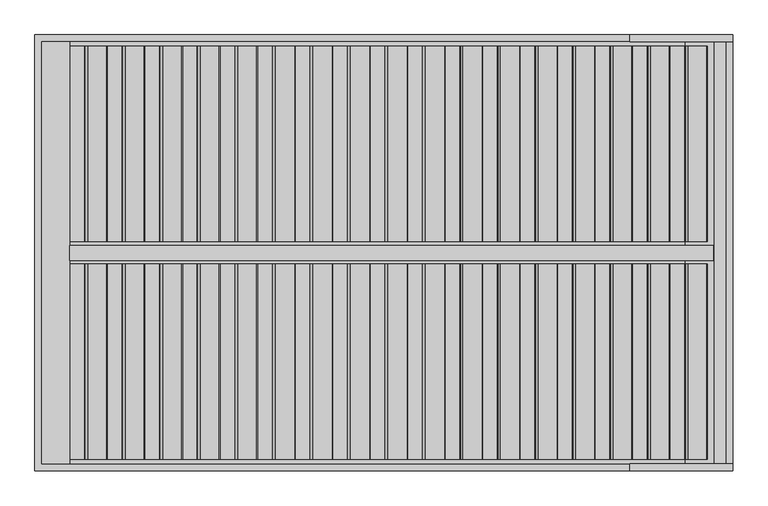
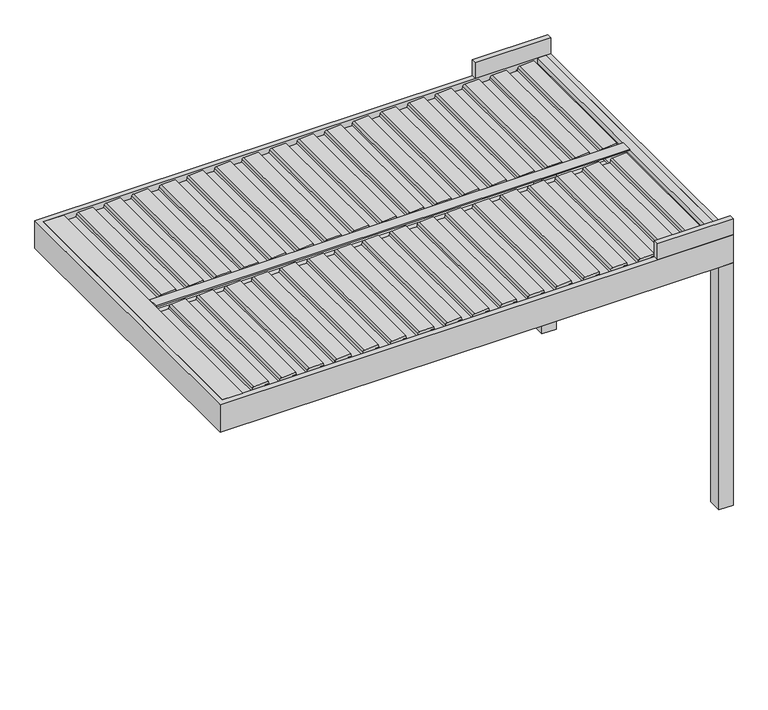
"""IFC4 building model written with IfcOpenShell, lengths in millimetres: proxy geometry, Renson_Algarve_Single Unit With Intermediate Beam : Algarve - Single Unit With Intermediate Beam."""

from ifc_helpers import new_model, si_unit, point, frame, frame_2d, origin, origin_with_axes, place, context, project, spatial, polyline, circle_curve, trimmed, segment, composite_curve, outline, extrude, faceted_brep, source, transform, mapped, element, save


def generic_models_c11a03fd(model_context):
    return source(origin(), model_context, "Body", "SolidModel", [
        extrude(outline(composite_curve([segment(polyline([(2188.35, 1609.6114167), (2216.01198, 1612.0315264), (2217.3970364, 1640.8667769), (2236.8911096, 1637.4294458), (2231.6075693, 1527.4323309)]), True, "CONTINUOUS"), segment(trimmed(circle_curve(frame_2d((2216.6248435, 1528.1520029)), 15.0), [point((2231.6075693, 1527.4323309))], [point((2219.2295662, 1513.3798866))], False, "CARTESIAN"), True, "CONTINUOUS"), segment(polyline([(2219.2295662, 1513.3798866), (2200.0, 1509.9891952), (2200.0, 1422.2534192), (2217.0788237, 1419.2419618), (2216.3450182, 1403.9649913), (2188.35, 1401.5157446), (2188.35, 1609.6114167)]), True, "CONTINUOUS")], self_intersect=False)), frame((0.0, -1810.0, 0.0), z_axis=(0.0, 1.0, 0.0), x_axis=(0.0, 0.0, 1.0)), (0.0, 0.0, 1.0), 1120.0),
        extrude(outline(composite_curve([segment(polyline([(2188.35, 1394.600612), (2216.01198, 1397.0207216), (2217.3970364, 1425.8559721), (2236.8911096, 1422.418641), (2231.6075693, 1312.4215261)]), True, "CONTINUOUS"), segment(trimmed(circle_curve(frame_2d((2216.6248435, 1313.1411981)), 15.0), [point((2231.6075693, 1312.4215261))], [point((2219.2295662, 1298.3690818))], False, "CARTESIAN"), True, "CONTINUOUS"), segment(polyline([(2219.2295662, 1298.3690818), (2200.0, 1294.9783904), (2200.0, 1207.2426144), (2217.0788237, 1204.231157), (2216.3450182, 1188.9541865), (2188.35, 1186.5049398), (2188.35, 1394.600612)]), True, "CONTINUOUS")], self_intersect=False)), frame((0.0, -1810.0, 0.0), z_axis=(0.0, 1.0, 0.0), x_axis=(0.0, 0.0, 1.0)), (0.0, 0.0, 1.0), 1120.0),
        extrude(outline(composite_curve([segment(polyline([(2188.35, 1179.5898072), (2216.01198, 1182.0099168), (2217.3970364, 1210.8451673), (2236.8911096, 1207.4078362), (2231.6075693, 1097.4107214)]), True, "CONTINUOUS"), segment(trimmed(circle_curve(frame_2d((2216.6248435, 1098.1303933)), 15.0), [point((2231.6075693, 1097.4107214))], [point((2219.2295662, 1083.358277))], False, "CARTESIAN"), True, "CONTINUOUS"), segment(polyline([(2219.2295662, 1083.358277), (2200.0, 1079.9675857), (2200.0, 992.2318096), (2217.0788237, 989.2203522), (2216.3450182, 973.9433817), (2188.35, 971.494135), (2188.35, 1179.5898072)]), True, "CONTINUOUS")], self_intersect=False)), frame((0.0, -1810.0, 0.0), z_axis=(0.0, 1.0, 0.0), x_axis=(0.0, 0.0, 1.0)), (0.0, 0.0, 1.0), 1120.0),
        extrude(outline(composite_curve([segment(polyline([(2188.35, 964.5790024), (2216.01198, 966.999112), (2217.3970364, 995.8343625), (2236.8911096, 992.3970314), (2231.6075693, 882.3999166)]), True, "CONTINUOUS"), segment(trimmed(circle_curve(frame_2d((2216.6248435, 883.1195885)), 15.0), [point((2231.6075693, 882.3999166))], [point((2219.2295662, 868.3474722))], False, "CARTESIAN"), True, "CONTINUOUS"), segment(polyline([(2219.2295662, 868.3474722), (2200.0, 864.9567809), (2200.0, 777.2210048), (2217.0788237, 774.2095474), (2216.3450182, 758.932577), (2188.35, 756.4833302), (2188.35, 964.5790024)]), True, "CONTINUOUS")], self_intersect=False)), frame((0.0, -1810.0, 0.0), z_axis=(0.0, 1.0, 0.0), x_axis=(0.0, 0.0, 1.0)), (0.0, 0.0, 1.0), 1120.0),
        extrude(outline(composite_curve([segment(polyline([(2188.35, 749.5681976), (2216.01198, 751.9883073), (2217.3970364, 780.8235577), (2236.8911096, 777.3862267), (2231.6075693, 667.3891118)]), True, "CONTINUOUS"), segment(trimmed(circle_curve(frame_2d((2216.6248435, 668.1087837)), 15.0), [point((2231.6075693, 667.3891118))], [point((2219.2295662, 653.3366674))], False, "CARTESIAN"), True, "CONTINUOUS"), segment(polyline([(2219.2295662, 653.3366674), (2200.0, 649.9459761), (2200.0, 562.2102001), (2217.0788237, 559.1987426), (2216.3450182, 543.9217722), (2188.35, 541.4725254), (2188.35, 749.5681976)]), True, "CONTINUOUS")], self_intersect=False)), frame((0.0, -1810.0, 0.0), z_axis=(0.0, 1.0, 0.0), x_axis=(0.0, 0.0, 1.0)), (0.0, 0.0, 1.0), 1120.0),
        extrude(outline(composite_curve([segment(polyline([(2188.35, 534.5573928), (2216.01198, 536.9775025), (2217.3970364, 565.8127529), (2236.8911096, 562.3754219), (2231.6075693, 452.378307)]), True, "CONTINUOUS"), segment(trimmed(circle_curve(frame_2d((2216.6248435, 453.0979789)), 15.0), [point((2231.6075693, 452.378307))], [point((2219.2295662, 438.3258627))], False, "CARTESIAN"), True, "CONTINUOUS"), segment(polyline([(2219.2295662, 438.3258627), (2200.0, 434.9351713), (2200.0, 347.1993953), (2217.0788237, 344.1879379), (2216.3450182, 328.9109674), (2188.35, 326.4617207), (2188.35, 534.5573928)]), True, "CONTINUOUS")], self_intersect=False)), frame((0.0, -1810.0, 0.0), z_axis=(0.0, 1.0, 0.0), x_axis=(0.0, 0.0, 1.0)), (0.0, 0.0, 1.0), 1120.0),
        extrude(outline(composite_curve([segment(polyline([(2188.35, 319.546588), (2216.01198, 321.9666977), (2217.3970364, 350.8019482), (2236.8911096, 347.3646171), (2231.6075693, 237.3675022)]), True, "CONTINUOUS"), segment(trimmed(circle_curve(frame_2d((2216.6248435, 238.0871742)), 15.0), [point((2231.6075693, 237.3675022))], [point((2219.2295662, 223.3150579))], False, "CARTESIAN"), True, "CONTINUOUS"), segment(polyline([(2219.2295662, 223.3150579), (2200.0, 219.9243665), (2200.0, 132.1885905), (2217.0788237, 129.1771331), (2216.3450182, 113.9001626), (2188.35, 111.4509159), (2188.35, 319.546588)]), True, "CONTINUOUS")], self_intersect=False)), frame((0.0, -1810.0, 0.0), z_axis=(0.0, 1.0, 0.0), x_axis=(0.0, 0.0, 1.0)), (0.0, 0.0, 1.0), 1120.0),
        extrude(outline(composite_curve([segment(polyline([(2188.35, 104.5357833), (2216.01198, 106.9558929), (2217.3970364, 135.7911434), (2236.8911096, 132.3538123), (2231.6075693, 22.3566975)]), True, "CONTINUOUS"), segment(trimmed(circle_curve(frame_2d((2216.6248435, 23.0763694)), 15.0), [point((2231.6075693, 22.3566975))], [point((2219.2295662, 8.3042531))], False, "CARTESIAN"), True, "CONTINUOUS"), segment(polyline([(2219.2295662, 8.3042531), (2200.0, 4.9135617), (2200.0, -82.8222143), (2217.0788237, -85.8336717), (2216.3450182, -101.1106422), (2188.35, -103.5598889), (2188.35, 104.5357833)]), True, "CONTINUOUS")], self_intersect=False)), frame((0.0, -1810.0, 0.0), z_axis=(0.0, 1.0, 0.0), x_axis=(0.0, 0.0, 1.0)), (0.0, 0.0, 1.0), 1120.0),
        extrude(outline(composite_curve([segment(polyline([(2188.35, -110.4750215), (2216.01198, -108.0549119), (2217.3970364, -79.2196614), (2236.8911096, -82.6569925), (2231.6075693, -192.6541073)]), True, "CONTINUOUS"), segment(trimmed(circle_curve(frame_2d((2216.6248435, -191.9344354)), 15.0), [point((2231.6075693, -192.6541073))], [point((2219.2295662, -206.7065517))], False, "CARTESIAN"), True, "CONTINUOUS"), segment(polyline([(2219.2295662, -206.7065517), (2200.0, -210.097243), (2200.0, -297.8330191), (2217.0788237, -300.8444765), (2216.3450182, -316.121447), (2188.35, -318.5706937), (2188.35, -110.4750215)]), True, "CONTINUOUS")], self_intersect=False)), frame((0.0, -1810.0, 0.0), z_axis=(0.0, 1.0, 0.0), x_axis=(0.0, 0.0, 1.0)), (0.0, 0.0, 1.0), 1120.0),
        extrude(outline(composite_curve([segment(polyline([(2188.35, -325.4858263), (2216.01198, -323.0657166), (2217.3970364, -294.2304662), (2236.8911096, -297.6677973), (2231.6075693, -407.6649121)]), True, "CONTINUOUS"), segment(trimmed(circle_curve(frame_2d((2216.6248435, -406.9452402)), 15.0), [point((2231.6075693, -407.6649121))], [point((2219.2295662, -421.7173565))], False, "CARTESIAN"), True, "CONTINUOUS"), segment(polyline([(2219.2295662, -421.7173565), (2200.0, -425.1080478), (2200.0, -512.8438238), (2217.0788237, -515.8552813), (2216.3450182, -531.1322517), (2188.35, -533.5814985), (2188.35, -325.4858263)]), True, "CONTINUOUS")], self_intersect=False)), frame((0.0, -1810.0, 0.0), z_axis=(0.0, 1.0, 0.0), x_axis=(0.0, 0.0, 1.0)), (0.0, 0.0, 1.0), 1120.0),
        extrude(outline(composite_curve([segment(polyline([(2188.35, -540.4966311), (2216.01198, -538.0765214), (2217.3970364, -509.241271), (2236.8911096, -512.678602), (2231.6075693, -622.6757169)]), True, "CONTINUOUS"), segment(trimmed(circle_curve(frame_2d((2216.6248435, -621.956045)), 15.0), [point((2231.6075693, -622.6757169))], [point((2219.2295662, -636.7281613))], False, "CARTESIAN"), True, "CONTINUOUS"), segment(polyline([(2219.2295662, -636.7281613), (2200.0, -640.1188526), (2200.0, -727.8546286), (2217.0788237, -730.866086), (2216.3450182, -746.1430565), (2188.35, -748.5923032), (2188.35, -540.4966311)]), True, "CONTINUOUS")], self_intersect=False)), frame((0.0, -1810.0, 0.0), z_axis=(0.0, 1.0, 0.0), x_axis=(0.0, 0.0, 1.0)), (0.0, 0.0, 1.0), 1120.0),
        extrude(outline(composite_curve([segment(polyline([(2188.35, -755.5074359), (2216.01198, -753.0873262), (2217.3970364, -724.2520757), (2236.8911096, -727.6894068), (2231.6075693, -837.6865217)]), True, "CONTINUOUS"), segment(trimmed(circle_curve(frame_2d((2216.6248435, -836.9668497)), 15.0), [point((2231.6075693, -837.6865217))], [point((2219.2295662, -851.738966))], False, "CARTESIAN"), True, "CONTINUOUS"), segment(polyline([(2219.2295662, -851.738966), (2200.0, -855.1296574), (2200.0, -942.8654334), (2217.0788237, -945.8768908), (2216.3450182, -961.1538613), (2188.35, -963.603108), (2188.35, -755.5074359)]), True, "CONTINUOUS")], self_intersect=False)), frame((0.0, -1810.0, 0.0), z_axis=(0.0, 1.0, 0.0), x_axis=(0.0, 0.0, 1.0)), (0.0, 0.0, 1.0), 1120.0),
        extrude(outline(composite_curve([segment(polyline([(2188.35, -970.5182406), (2216.01198, -968.098131), (2217.3970364, -939.2628805), (2236.8911096, -942.7002116), (2231.6075693, -1052.6973265)]), True, "CONTINUOUS"), segment(trimmed(circle_curve(frame_2d((2216.6248435, -1051.9776545)), 15.0), [point((2231.6075693, -1052.6973265))], [point((2219.2295662, -1066.7497708))], False, "CARTESIAN"), True, "CONTINUOUS"), segment(polyline([(2219.2295662, -1066.7497708), (2200.0, -1070.1404622), (2200.0, -1157.8762382), (2217.0788237, -1160.8876956), (2216.3450182, -1176.1646661), (2188.35, -1178.6139128), (2188.35, -970.5182406)]), True, "CONTINUOUS")], self_intersect=False)), frame((0.0, -1810.0, 0.0), z_axis=(0.0, 1.0, 0.0), x_axis=(0.0, 0.0, 1.0)), (0.0, 0.0, 1.0), 1120.0),
        extrude(outline(composite_curve([segment(polyline([(2188.35, -1185.5290454), (2216.01198, -1183.1089358), (2217.3970364, -1154.2736853), (2236.8911096, -1157.7110164), (2231.6075693, -1267.7081312)]), True, "CONTINUOUS"), segment(trimmed(circle_curve(frame_2d((2216.6248435, -1266.9884593)), 15.0), [point((2231.6075693, -1267.7081312))], [point((2219.2295662, -1281.7605756))], False, "CARTESIAN"), True, "CONTINUOUS"), segment(polyline([(2219.2295662, -1281.7605756), (2200.0, -1285.1512669), (2200.0, -1372.887043), (2217.0788237, -1375.8985004), (2216.3450182, -1391.1754709), (2188.35, -1393.6247176), (2188.35, -1185.5290454)]), True, "CONTINUOUS")], self_intersect=False)), frame((0.0, -1810.0, 0.0), z_axis=(0.0, 1.0, 0.0), x_axis=(0.0, 0.0, 1.0)), (0.0, 0.0, 1.0), 1120.0),
        extrude(outline(composite_curve([segment(polyline([(2188.35, -1400.5398502), (2216.01198, -1398.1197405), (2217.3970364, -1369.2844901), (2236.8911096, -1372.7218212), (2231.6075693, -1482.718936)]), True, "CONTINUOUS"), segment(trimmed(circle_curve(frame_2d((2216.6248435, -1481.9992641)), 15.0), [point((2231.6075693, -1482.718936))], [point((2219.2295662, -1496.7713804))], False, "CARTESIAN"), True, "CONTINUOUS"), segment(polyline([(2219.2295662, -1496.7713804), (2200.0, -1500.1620717), (2200.0, -1587.8978478), (2217.0788237, -1590.9093052), (2216.3450182, -1606.1862756), (2188.35, -1608.6355224), (2188.35, -1400.5398502)]), True, "CONTINUOUS")], self_intersect=False)), frame((0.0, -1810.0, 0.0), z_axis=(0.0, 1.0, 0.0), x_axis=(0.0, 0.0, 1.0)), (0.0, 0.0, 1.0), 1120.0),
        extrude(outline(composite_curve([segment(polyline([(2188.35, 1824.6222215), (2216.01198, 1827.0423312), (2217.3970364, 1855.8775816), (2236.8911096, 1852.4402506), (2231.6075693, 1742.4431357)]), True, "CONTINUOUS"), segment(trimmed(circle_curve(frame_2d((2216.6248435, 1743.1628076)), 15.0), [point((2231.6075693, 1742.4431357))], [point((2219.2295662, 1728.3906913))], False, "CARTESIAN"), True, "CONTINUOUS"), segment(polyline([(2219.2295662, 1728.3906913), (2200.0, 1725.0), (2200.0, 1637.264224), (2217.0788237, 1634.2527666), (2216.3450182, 1618.9757961), (2188.35, 1616.5265494), (2188.35, 1824.6222215)]), True, "CONTINUOUS")], self_intersect=False)), frame((0.0, -1810.0, 0.0), z_axis=(0.0, 1.0, 0.0), x_axis=(0.0, 0.0, 1.0)), (0.0, 0.0, 1.0), 1120.0),
        extrude(outline(composite_curve([segment(polyline([(2188.35, -1615.550655), (2216.01198, -1613.1305453), (2217.3970364, -1584.2952949), (2236.8911096, -1587.7326259), (2231.6075693, -1697.7297408)]), True, "CONTINUOUS"), segment(trimmed(circle_curve(frame_2d((2216.6248435, -1697.0100689)), 15.0), [point((2231.6075693, -1697.7297408))], [point((2219.2295662, -1711.7821852))], False, "CARTESIAN"), True, "CONTINUOUS"), segment(polyline([(2219.2295662, -1711.7821852), (2200.0, -1715.1728765), (2200.0, -1802.9086525), (2217.0788237, -1805.9201099), (2216.3450182, -1821.1970804), (2188.35, -1823.6463271), (2188.35, -1615.550655)]), True, "CONTINUOUS")], self_intersect=False)), frame((0.0, -1810.0, 0.0), z_axis=(0.0, 1.0, 0.0), x_axis=(0.0, 0.0, 1.0)), (0.0, 0.0, 1.0), 1120.0),
        extrude(outline(composite_curve([segment(polyline([(2188.35, 1609.6114167), (2216.01198, 1612.0315264), (2217.3970364, 1640.8667769), (2236.8911096, 1637.4294458), (2231.6075693, 1527.4323309)]), True, "CONTINUOUS"), segment(trimmed(circle_curve(frame_2d((2216.6248435, 1528.1520029)), 15.0), [point((2231.6075693, 1527.4323309))], [point((2219.2295662, 1513.3798866))], False, "CARTESIAN"), True, "CONTINUOUS"), segment(polyline([(2219.2295662, 1513.3798866), (2200.0, 1509.9891952), (2200.0, 1422.2534192), (2217.0788237, 1419.2419618), (2216.3450182, 1403.9649913), (2188.35, 1401.5157446), (2188.35, 1609.6114167)]), True, "CONTINUOUS")], self_intersect=False)), frame((0.0, -560.0, 0.0), z_axis=(0.0, 1.0, 0.0), x_axis=(0.0, 0.0, 1.0)), (0.0, 0.0, 1.0), 1120.0),
        extrude(outline(composite_curve([segment(polyline([(2188.35, 1394.600612), (2216.01198, 1397.0207216), (2217.3970364, 1425.8559721), (2236.8911096, 1422.418641), (2231.6075693, 1312.4215261)]), True, "CONTINUOUS"), segment(trimmed(circle_curve(frame_2d((2216.6248435, 1313.1411981)), 15.0), [point((2231.6075693, 1312.4215261))], [point((2219.2295662, 1298.3690818))], False, "CARTESIAN"), True, "CONTINUOUS"), segment(polyline([(2219.2295662, 1298.3690818), (2200.0, 1294.9783904), (2200.0, 1207.2426144), (2217.0788237, 1204.231157), (2216.3450182, 1188.9541865), (2188.35, 1186.5049398), (2188.35, 1394.600612)]), True, "CONTINUOUS")], self_intersect=False)), frame((0.0, -560.0, 0.0), z_axis=(0.0, 1.0, 0.0), x_axis=(0.0, 0.0, 1.0)), (0.0, 0.0, 1.0), 1120.0),
        extrude(outline(composite_curve([segment(polyline([(2188.35, 1179.5898072), (2216.01198, 1182.0099168), (2217.3970364, 1210.8451673), (2236.8911096, 1207.4078362), (2231.6075693, 1097.4107214)]), True, "CONTINUOUS"), segment(trimmed(circle_curve(frame_2d((2216.6248435, 1098.1303933)), 15.0), [point((2231.6075693, 1097.4107214))], [point((2219.2295662, 1083.358277))], False, "CARTESIAN"), True, "CONTINUOUS"), segment(polyline([(2219.2295662, 1083.358277), (2200.0, 1079.9675857), (2200.0, 992.2318096), (2217.0788237, 989.2203522), (2216.3450182, 973.9433817), (2188.35, 971.494135), (2188.35, 1179.5898072)]), True, "CONTINUOUS")], self_intersect=False)), frame((0.0, -560.0, 0.0), z_axis=(0.0, 1.0, 0.0), x_axis=(0.0, 0.0, 1.0)), (0.0, 0.0, 1.0), 1120.0),
        extrude(outline(composite_curve([segment(polyline([(2188.35, 964.5790024), (2216.01198, 966.999112), (2217.3970364, 995.8343625), (2236.8911096, 992.3970314), (2231.6075693, 882.3999166)]), True, "CONTINUOUS"), segment(trimmed(circle_curve(frame_2d((2216.6248435, 883.1195885)), 15.0), [point((2231.6075693, 882.3999166))], [point((2219.2295662, 868.3474722))], False, "CARTESIAN"), True, "CONTINUOUS"), segment(polyline([(2219.2295662, 868.3474722), (2200.0, 864.9567809), (2200.0, 777.2210048), (2217.0788237, 774.2095474), (2216.3450182, 758.932577), (2188.35, 756.4833302), (2188.35, 964.5790024)]), True, "CONTINUOUS")], self_intersect=False)), frame((0.0, -560.0, 0.0), z_axis=(0.0, 1.0, 0.0), x_axis=(0.0, 0.0, 1.0)), (0.0, 0.0, 1.0), 1120.0),
        extrude(outline(composite_curve([segment(polyline([(2188.35, 749.5681976), (2216.01198, 751.9883073), (2217.3970364, 780.8235577), (2236.8911096, 777.3862267), (2231.6075693, 667.3891118)]), True, "CONTINUOUS"), segment(trimmed(circle_curve(frame_2d((2216.6248435, 668.1087837)), 15.0), [point((2231.6075693, 667.3891118))], [point((2219.2295662, 653.3366674))], False, "CARTESIAN"), True, "CONTINUOUS"), segment(polyline([(2219.2295662, 653.3366674), (2200.0, 649.9459761), (2200.0, 562.2102001), (2217.0788237, 559.1987426), (2216.3450182, 543.9217722), (2188.35, 541.4725254), (2188.35, 749.5681976)]), True, "CONTINUOUS")], self_intersect=False)), frame((0.0, -560.0, 0.0), z_axis=(0.0, 1.0, 0.0), x_axis=(0.0, 0.0, 1.0)), (0.0, 0.0, 1.0), 1120.0),
        extrude(outline(composite_curve([segment(polyline([(2188.35, 534.5573928), (2216.01198, 536.9775025), (2217.3970364, 565.8127529), (2236.8911096, 562.3754219), (2231.6075693, 452.378307)]), True, "CONTINUOUS"), segment(trimmed(circle_curve(frame_2d((2216.6248435, 453.0979789)), 15.0), [point((2231.6075693, 452.378307))], [point((2219.2295662, 438.3258627))], False, "CARTESIAN"), True, "CONTINUOUS"), segment(polyline([(2219.2295662, 438.3258627), (2200.0, 434.9351713), (2200.0, 347.1993953), (2217.0788237, 344.1879379), (2216.3450182, 328.9109674), (2188.35, 326.4617207), (2188.35, 534.5573928)]), True, "CONTINUOUS")], self_intersect=False)), frame((0.0, -560.0, 0.0), z_axis=(0.0, 1.0, 0.0), x_axis=(0.0, 0.0, 1.0)), (0.0, 0.0, 1.0), 1120.0),
        extrude(outline(composite_curve([segment(polyline([(2188.35, 319.546588), (2216.01198, 321.9666977), (2217.3970364, 350.8019482), (2236.8911096, 347.3646171), (2231.6075693, 237.3675022)]), True, "CONTINUOUS"), segment(trimmed(circle_curve(frame_2d((2216.6248435, 238.0871742)), 15.0), [point((2231.6075693, 237.3675022))], [point((2219.2295662, 223.3150579))], False, "CARTESIAN"), True, "CONTINUOUS"), segment(polyline([(2219.2295662, 223.3150579), (2200.0, 219.9243665), (2200.0, 132.1885905), (2217.0788237, 129.1771331), (2216.3450182, 113.9001626), (2188.35, 111.4509159), (2188.35, 319.546588)]), True, "CONTINUOUS")], self_intersect=False)), frame((0.0, -560.0, 0.0), z_axis=(0.0, 1.0, 0.0), x_axis=(0.0, 0.0, 1.0)), (0.0, 0.0, 1.0), 1120.0),
        extrude(outline(composite_curve([segment(polyline([(2188.35, 104.5357833), (2216.01198, 106.9558929), (2217.3970364, 135.7911434), (2236.8911096, 132.3538123), (2231.6075693, 22.3566975)]), True, "CONTINUOUS"), segment(trimmed(circle_curve(frame_2d((2216.6248435, 23.0763694)), 15.0), [point((2231.6075693, 22.3566975))], [point((2219.2295662, 8.3042531))], False, "CARTESIAN"), True, "CONTINUOUS"), segment(polyline([(2219.2295662, 8.3042531), (2200.0, 4.9135617), (2200.0, -82.8222143), (2217.0788237, -85.8336717), (2216.3450182, -101.1106422), (2188.35, -103.5598889), (2188.35, 104.5357833)]), True, "CONTINUOUS")], self_intersect=False)), frame((0.0, -560.0, 0.0), z_axis=(0.0, 1.0, 0.0), x_axis=(0.0, 0.0, 1.0)), (0.0, 0.0, 1.0), 1120.0),
        extrude(outline(composite_curve([segment(polyline([(2188.35, -110.4750215), (2216.01198, -108.0549119), (2217.3970364, -79.2196614), (2236.8911096, -82.6569925), (2231.6075693, -192.6541073)]), True, "CONTINUOUS"), segment(trimmed(circle_curve(frame_2d((2216.6248435, -191.9344354)), 15.0), [point((2231.6075693, -192.6541073))], [point((2219.2295662, -206.7065517))], False, "CARTESIAN"), True, "CONTINUOUS"), segment(polyline([(2219.2295662, -206.7065517), (2200.0, -210.097243), (2200.0, -297.8330191), (2217.0788237, -300.8444765), (2216.3450182, -316.121447), (2188.35, -318.5706937), (2188.35, -110.4750215)]), True, "CONTINUOUS")], self_intersect=False)), frame((0.0, -560.0, 0.0), z_axis=(0.0, 1.0, 0.0), x_axis=(0.0, 0.0, 1.0)), (0.0, 0.0, 1.0), 1120.0),
        extrude(outline(composite_curve([segment(polyline([(2188.35, -325.4858263), (2216.01198, -323.0657166), (2217.3970364, -294.2304662), (2236.8911096, -297.6677973), (2231.6075693, -407.6649121)]), True, "CONTINUOUS"), segment(trimmed(circle_curve(frame_2d((2216.6248435, -406.9452402)), 15.0), [point((2231.6075693, -407.6649121))], [point((2219.2295662, -421.7173565))], False, "CARTESIAN"), True, "CONTINUOUS"), segment(polyline([(2219.2295662, -421.7173565), (2200.0, -425.1080478), (2200.0, -512.8438238), (2217.0788237, -515.8552813), (2216.3450182, -531.1322517), (2188.35, -533.5814985), (2188.35, -325.4858263)]), True, "CONTINUOUS")], self_intersect=False)), frame((0.0, -560.0, 0.0), z_axis=(0.0, 1.0, 0.0), x_axis=(0.0, 0.0, 1.0)), (0.0, 0.0, 1.0), 1120.0),
        extrude(outline(composite_curve([segment(polyline([(2188.35, -540.4966311), (2216.01198, -538.0765214), (2217.3970364, -509.241271), (2236.8911096, -512.678602), (2231.6075693, -622.6757169)]), True, "CONTINUOUS"), segment(trimmed(circle_curve(frame_2d((2216.6248435, -621.956045)), 15.0), [point((2231.6075693, -622.6757169))], [point((2219.2295662, -636.7281613))], False, "CARTESIAN"), True, "CONTINUOUS"), segment(polyline([(2219.2295662, -636.7281613), (2200.0, -640.1188526), (2200.0, -727.8546286), (2217.0788237, -730.866086), (2216.3450182, -746.1430565), (2188.35, -748.5923032), (2188.35, -540.4966311)]), True, "CONTINUOUS")], self_intersect=False)), frame((0.0, -560.0, 0.0), z_axis=(0.0, 1.0, 0.0), x_axis=(0.0, 0.0, 1.0)), (0.0, 0.0, 1.0), 1120.0),
        extrude(outline(composite_curve([segment(polyline([(2188.35, -755.5074359), (2216.01198, -753.0873262), (2217.3970364, -724.2520757), (2236.8911096, -727.6894068), (2231.6075693, -837.6865217)]), True, "CONTINUOUS"), segment(trimmed(circle_curve(frame_2d((2216.6248435, -836.9668497)), 15.0), [point((2231.6075693, -837.6865217))], [point((2219.2295662, -851.738966))], False, "CARTESIAN"), True, "CONTINUOUS"), segment(polyline([(2219.2295662, -851.738966), (2200.0, -855.1296574), (2200.0, -942.8654334), (2217.0788237, -945.8768908), (2216.3450182, -961.1538613), (2188.35, -963.603108), (2188.35, -755.5074359)]), True, "CONTINUOUS")], self_intersect=False)), frame((0.0, -560.0, 0.0), z_axis=(0.0, 1.0, 0.0), x_axis=(0.0, 0.0, 1.0)), (0.0, 0.0, 1.0), 1120.0),
        extrude(outline(composite_curve([segment(polyline([(2188.35, -970.5182406), (2216.01198, -968.098131), (2217.3970364, -939.2628805), (2236.8911096, -942.7002116), (2231.6075693, -1052.6973265)]), True, "CONTINUOUS"), segment(trimmed(circle_curve(frame_2d((2216.6248435, -1051.9776545)), 15.0), [point((2231.6075693, -1052.6973265))], [point((2219.2295662, -1066.7497708))], False, "CARTESIAN"), True, "CONTINUOUS"), segment(polyline([(2219.2295662, -1066.7497708), (2200.0, -1070.1404622), (2200.0, -1157.8762382), (2217.0788237, -1160.8876956), (2216.3450182, -1176.1646661), (2188.35, -1178.6139128), (2188.35, -970.5182406)]), True, "CONTINUOUS")], self_intersect=False)), frame((0.0, -560.0, 0.0), z_axis=(0.0, 1.0, 0.0), x_axis=(0.0, 0.0, 1.0)), (0.0, 0.0, 1.0), 1120.0),
        extrude(outline(composite_curve([segment(polyline([(2188.35, -1185.5290454), (2216.01198, -1183.1089358), (2217.3970364, -1154.2736853), (2236.8911096, -1157.7110164), (2231.6075693, -1267.7081312)]), True, "CONTINUOUS"), segment(trimmed(circle_curve(frame_2d((2216.6248435, -1266.9884593)), 15.0), [point((2231.6075693, -1267.7081312))], [point((2219.2295662, -1281.7605756))], False, "CARTESIAN"), True, "CONTINUOUS"), segment(polyline([(2219.2295662, -1281.7605756), (2200.0, -1285.1512669), (2200.0, -1372.887043), (2217.0788237, -1375.8985004), (2216.3450182, -1391.1754709), (2188.35, -1393.6247176), (2188.35, -1185.5290454)]), True, "CONTINUOUS")], self_intersect=False)), frame((0.0, -560.0, 0.0), z_axis=(0.0, 1.0, 0.0), x_axis=(0.0, 0.0, 1.0)), (0.0, 0.0, 1.0), 1120.0),
        extrude(outline(composite_curve([segment(polyline([(2188.35, -1400.5398502), (2216.01198, -1398.1197405), (2217.3970364, -1369.2844901), (2236.8911096, -1372.7218212), (2231.6075693, -1482.718936)]), True, "CONTINUOUS"), segment(trimmed(circle_curve(frame_2d((2216.6248435, -1481.9992641)), 15.0), [point((2231.6075693, -1482.718936))], [point((2219.2295662, -1496.7713804))], False, "CARTESIAN"), True, "CONTINUOUS"), segment(polyline([(2219.2295662, -1496.7713804), (2200.0, -1500.1620717), (2200.0, -1587.8978478), (2217.0788237, -1590.9093052), (2216.3450182, -1606.1862756), (2188.35, -1608.6355224), (2188.35, -1400.5398502)]), True, "CONTINUOUS")], self_intersect=False)), frame((0.0, -560.0, 0.0), z_axis=(0.0, 1.0, 0.0), x_axis=(0.0, 0.0, 1.0)), (0.0, 0.0, 1.0), 1120.0),
        extrude(outline(composite_curve([segment(polyline([(2188.35, 1824.6222215), (2216.01198, 1827.0423312), (2217.3970364, 1855.8775816), (2236.8911096, 1852.4402506), (2231.6075693, 1742.4431357)]), True, "CONTINUOUS"), segment(trimmed(circle_curve(frame_2d((2216.6248435, 1743.1628076)), 15.0), [point((2231.6075693, 1742.4431357))], [point((2219.2295662, 1728.3906913))], False, "CARTESIAN"), True, "CONTINUOUS"), segment(polyline([(2219.2295662, 1728.3906913), (2200.0, 1725.0), (2200.0, 1637.264224), (2217.0788237, 1634.2527666), (2216.3450182, 1618.9757961), (2188.35, 1616.5265494), (2188.35, 1824.6222215)]), True, "CONTINUOUS")], self_intersect=False)), frame((0.0, -560.0, 0.0), z_axis=(0.0, 1.0, 0.0), x_axis=(0.0, 0.0, 1.0)), (0.0, 0.0, 1.0), 1120.0),
        extrude(outline(composite_curve([segment(polyline([(2188.35, -1615.550655), (2216.01198, -1613.1305453), (2217.3970364, -1584.2952949), (2236.8911096, -1587.7326259), (2231.6075693, -1697.7297408)]), True, "CONTINUOUS"), segment(trimmed(circle_curve(frame_2d((2216.6248435, -1697.0100689)), 15.0), [point((2231.6075693, -1697.7297408))], [point((2219.2295662, -1711.7821852))], False, "CARTESIAN"), True, "CONTINUOUS"), segment(polyline([(2219.2295662, -1711.7821852), (2200.0, -1715.1728765), (2200.0, -1802.9086525), (2217.0788237, -1805.9201099), (2216.3450182, -1821.1970804), (2188.35, -1823.6463271), (2188.35, -1615.550655)]), True, "CONTINUOUS")], self_intersect=False)), frame((0.0, -560.0, 0.0), z_axis=(0.0, 1.0, 0.0), x_axis=(0.0, 0.0, 1.0)), (0.0, 0.0, 1.0), 1120.0),
        extrude(outline(polyline([(2168.0, 1960.0), (2230.0, 1960.0), (2230.0, 1896.0), (2188.0, 1896.0), (2188.0, 1730.0), (2168.0, 1730.0), (2168.0, 1960.0)])), frame((0.0, -1835.0, 0.0), z_axis=(0.0, 1.0, 0.0), x_axis=(0.0, 0.0, 1.0)), (0.0, 0.0, 1.0), 2420.0),
        extrude(outline(polyline([(2230.0, -1800.0), (2230.0, -1960.0), (2186.0, -1960.0), (2186.0, -1827.3193336), (2219.1716603, -1824.4171894), (2220.344502, -1800.0), (2230.0, -1800.0)])), frame((0.0, -1835.0, 0.0), z_axis=(0.0, 1.0, 0.0), x_axis=(0.0, 0.0, 1.0)), (0.0, 0.0, 1.0), 2420.0),
        extrude(outline(polyline([(2000.0, -1835.0), (2000.0, -1875.0), (1410.0, -1875.0), (1410.0, -1835.0), (2000.0, -1835.0)])), frame((0.0, 0.0, 2230.0), z_axis=(0.0, 0.0, 1.0), x_axis=(1.0, 0.0, 0.0)), (0.0, 0.0, 1.0), 130.0),
        extrude(outline(polyline([(1890.0, -588.0), (-1890.0, -588.0), (-1890.0, -515.0), (1890.0, -515.0), (1890.0, -588.0)])), frame((0.0, 0.0, 2000.0), z_axis=(0.0, 0.0, 1.0), x_axis=(1.0, 0.0, 0.0)), (0.0, 0.0, 1.0), 90.0),
        extrude(outline(polyline([(1890.0, -662.0), (1890.0, -735.0), (-1890.0, -735.0), (-1890.0, -662.0), (1890.0, -662.0)])), frame((0.0, 0.0, 2000.0), z_axis=(0.0, 0.0, 1.0), x_axis=(1.0, 0.0, 0.0)), (0.0, 0.0, 1.0), 90.0),
        extrude(outline(polyline([(1890.0, -582.5), (1890.0, -667.5), (-1800.0, -667.5), (-1800.0, -582.5), (1890.0, -582.5)])), frame((0.0, 0.0, 2230.0), z_axis=(0.0, 0.0, 1.0), x_axis=(1.0, 0.0, 0.0)), (0.0, 0.0, 1.0), 10.0),
        faceted_brep([(1890.0, 515.0, 2057.0), (1890.0, 515.0, 2000.0), (1890.0, -1765.0, 2000.0), (1890.0, -1765.0, 2057.0), (2000.0, 625.0, 2000.0), (2000.0, 625.0, 2230.0), (2000.0, -1875.0, 2230.0), (2000.0, -1875.0, 2000.0), (1960.0, 585.0, 2230.0), (1960.0, 585.0, 2057.0), (1960.0, -1835.0, 2057.0), (1960.0, -1835.0, 2230.0), (-1890.0, -1765.0, 2000.0), (-1890.0, -1765.0, 2057.0), (-2000.0, -1875.0, 2230.0), (-2000.0, -1875.0, 2000.0), (-1960.0, -1835.0, 2057.0), (-1960.0, -1835.0, 2230.0), (-1890.0, 515.0, 2000.0), (-1890.0, 515.0, 2057.0), (-2000.0, 625.0, 2230.0), (-2000.0, 625.0, 2000.0), (-1960.0, 585.0, 2057.0), (-1960.0, 585.0, 2230.0)], [[[0, 1, 2, 3]], [[4, 5, 6, 7]], [[8, 9, 10, 11]], [[3, 2, 12, 13]], [[7, 6, 14, 15]], [[11, 10, 16, 17]], [[13, 12, 18, 19]], [[15, 14, 20, 21]], [[17, 16, 22, 23]], [[9, 22, 16, 10], [3, 13, 19, 0]], [[19, 18, 1, 0]], [[7, 15, 21, 4], [1, 18, 12, 2]], [[21, 20, 5, 4]], [[5, 20, 14, 6], [11, 17, 23, 8]], [[23, 22, 9, 8]]]),
        extrude(outline(polyline([(2000.0, 625.0), (2000.0, 515.0), (1890.0, 515.0), (1890.0, 625.0), (2000.0, 625.0)])), origin_with_axes(), (0.0, 0.0, 1.0), 2000.0),
        extrude(outline(polyline([(2000.0, -1765.0), (2000.0, -1875.0), (1890.0, -1875.0), (1890.0, -1765.0), (2000.0, -1765.0)])), origin_with_axes(), (0.0, 0.0, 1.0), 2000.0),
        extrude(outline(polyline([(2000.0, 625.0), (2000.0, 585.0), (1410.0, 585.0), (1410.0, 625.0), (2000.0, 625.0)])), frame((0.0, 0.0, 2230.0), z_axis=(0.0, 0.0, 1.0), x_axis=(1.0, 0.0, 0.0)), (0.0, 0.0, 1.0), 130.0),
    ])


if __name__ == "__main__":
    model = new_model("IFC4")
    model_context = context("Model", 3, world=origin())
    ifc_project = project(units=[si_unit("LENGTHUNIT", "METRE", prefix="MILLI")], contexts=[model_context])
    site = spatial("IfcSite", under=ifc_project)
    building = spatial("IfcBuilding", under=site)
    placement = place(None, origin())
    generic_models_shape = generic_models_c11a03fd(model_context)
    element("IfcBuildingElementProxy", 1, Name="Renson_Algarve_Single Unit With Intermediate Beam : Algarve - Single Unit With Intermediate Beam", ObjectType="Renson_Algarve_Single Unit With Intermediate Beam : Algarve - Single Unit With Intermediate Beam", at=placement, inside=building, context=model_context, shape_type="MappedRepresentation", body=[
        mapped(generic_models_shape, transform((0.0, 0.0, 0.0), x_axis=(1.0, 0.0, 0.0), y_axis=(0.0, 1.0, 0.0), z_axis=(0.0, 0.0, 1.0))),
    ])
    save(model, "model.ifc")
